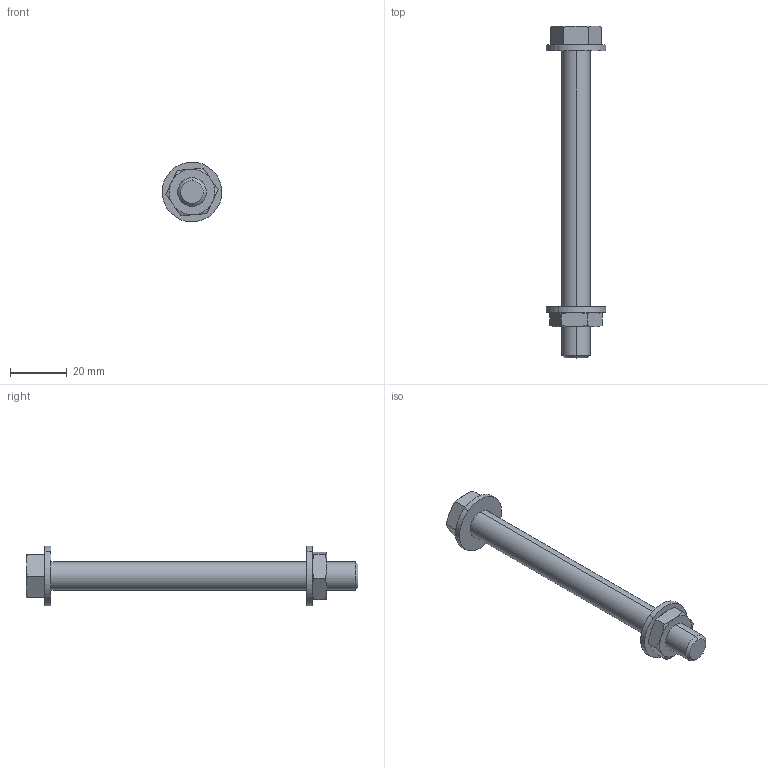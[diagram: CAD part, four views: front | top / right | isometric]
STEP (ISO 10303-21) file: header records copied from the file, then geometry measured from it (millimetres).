
FILE_DESCRIPTION (( 'STEP AP203' ), '1' );
FILE_NAME ('900.300.102.STEP', '2018-02-27T09:15:18', ( '' ), ( '' ), 'SwSTEP 2.0', 'SolidWorks 2016', '' );
FILE_SCHEMA (( 'CONFIG_CONTROL_DESIGN' ));
Length unit declared in the file: millimetre
Products named in the file (4): 900.300.102; DADI ESAGONALI RIBASSATI UNI 5589_M10 UNI 5589; VITI TE UNI 5739_M10x110 UNI 5739; RONDELLE UNI 6592_10.5x21 UNI 6592
Assembly tree (4 placements, depth 2):
  900.300.102
    VITI TE UNI 5739_M10x110 UNI 5739
    DADI ESAGONALI RIBASSATI UNI 5589_M10 UNI 5589
    RONDELLE UNI 6592_10.5x21 UNI 6592  x2
Bounding box: 20.93 x 116.67 x 20.93 mm (x, y, z)
Volume: 11738 mm3; surface area: 6335.6 mm2
Topology: 4 solids, 4 shells, 53 faces, 112 edges, 68 vertices
Faces by surface type: plane 21, cone 20, cylinder 12
Entity records: 1812 total; most frequent: CARTESIAN_POINT 394, DIRECTION 208, ORIENTED_EDGE 200, EDGE_CURVE 100, AXIS2_PLACEMENT_3D 90, VERTEX_POINT 60, EDGE_LOOP 52, FACE_OUTER_BOUND 47
